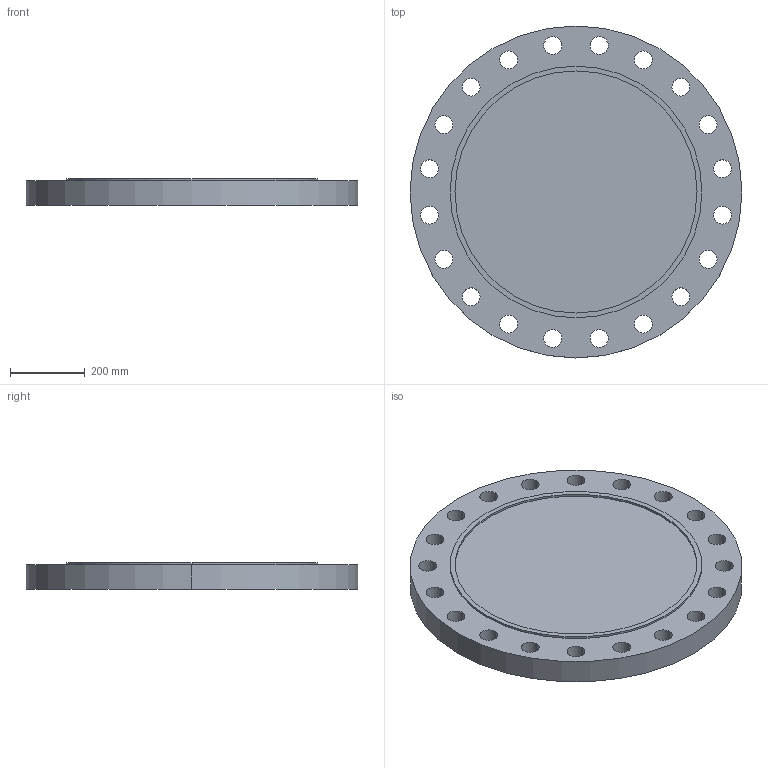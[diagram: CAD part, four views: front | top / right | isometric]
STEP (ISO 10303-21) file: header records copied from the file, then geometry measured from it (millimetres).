
FILE_DESCRIPTION (( 'STEP AP214' ), '1' );
FILE_NAME ('PN40 DN600 Type 05 - Type C Face.STEP', '2018-12-28T23:14:45', ( '' ), ( '' ), 'SwSTEP 2.0', 'SolidWorks 2019', '' );
FILE_SCHEMA (( 'AUTOMOTIVE_DESIGN' ));
Length unit declared in the file: millimetre
Products named in the file (1): PN40 DN600 Type 05 - Type C Face
Bounding box: 890 x 890 x 72 mm (x, y, z)
Volume: 39112563.1 mm3; surface area: 1581217 mm2
Topology: 1 solids, 1 shells, 50 faces, 138 edges, 92 vertices
Faces by surface type: cylinder 46, plane 4
Entity records: 1768 total; most frequent: DIRECTION 332, CARTESIAN_POINT 281, ORIENTED_EDGE 276, AXIS2_PLACEMENT_3D 143, EDGE_CURVE 138, CIRCLE 92, EDGE_LOOP 92, VERTEX_POINT 92
